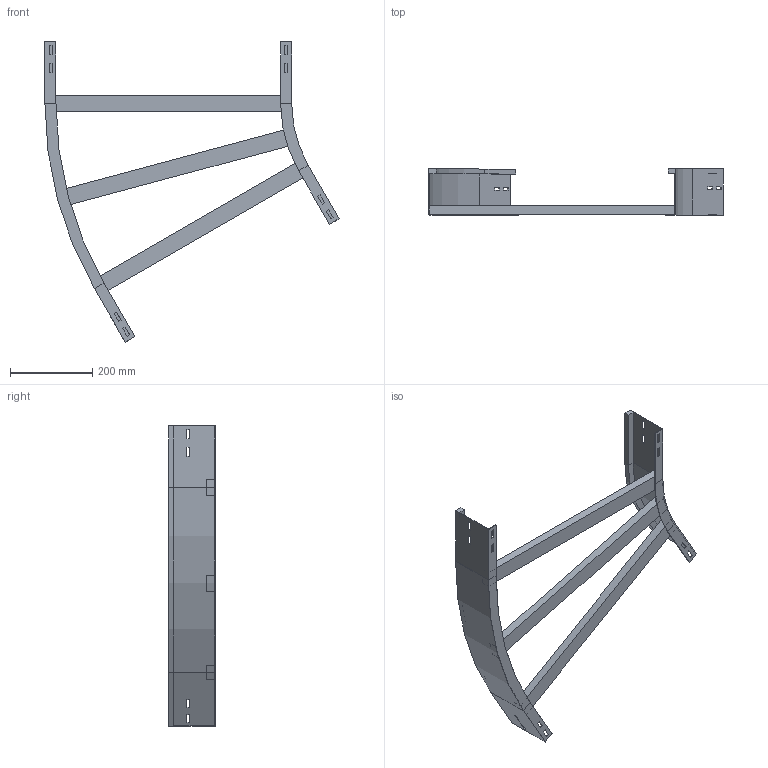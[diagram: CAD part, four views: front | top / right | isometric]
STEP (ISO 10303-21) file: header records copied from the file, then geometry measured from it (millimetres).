
FILE_DESCRIPTION (( 'STEP AP214' ), '1' );
FILE_NAME ('A2_12B3J600.step', '2025-02-21T15:09:04', ( '' ), ( '' ), 'SwSTEP 2.0', 'SolidWorks 2023', '' );
FILE_SCHEMA (( 'AUTOMOTIVE_DESIGN' ));
Length unit declared in the file: millimetre
Products named in the file (4): A2_12B3J600; TRAVERSINO_600; A2_LONGH.ESTERNO 30°_H112.5_R300+600; A2_LONGH.INTERNO 30°_H112.5_R300
Assembly tree (5 placements, depth 2):
  A2_12B3J600
    A2_LONGH.INTERNO 30°_H112.5_R300
    A2_LONGH.ESTERNO 30°_H112.5_R300+600
    TRAVERSINO_600  x3
Bounding box: 715.19 x 112.5 x 729.9 mm (x, y, z)
Volume: 2016976.8 mm3; surface area: 602011.1 mm2
Topology: 5 solids, 5 shells, 134 faces, 340 edges, 216 vertices
Faces by surface type: plane 126, cylinder 8
Entity records: 3821 total; most frequent: CARTESIAN_POINT 646, ORIENTED_EDGE 632, DIRECTION 592, EDGE_CURVE 316, VECTOR 300, LINE 300, VERTEX_POINT 200, EDGE_LOOP 154
